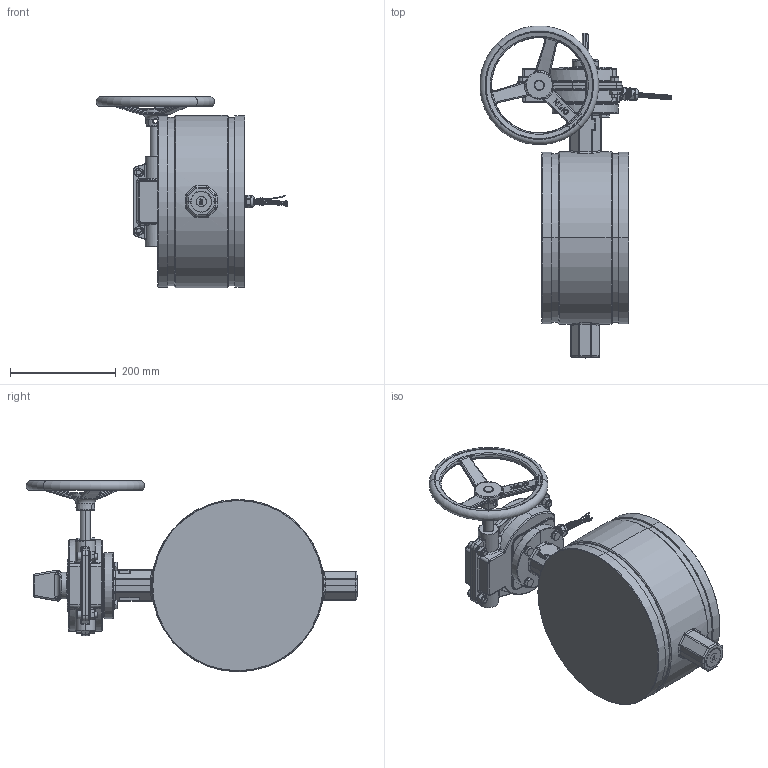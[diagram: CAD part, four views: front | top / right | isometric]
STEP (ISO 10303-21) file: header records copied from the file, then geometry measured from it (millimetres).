
FILE_DESCRIPTION (( 'STEP AP214' ), '1' );
FILE_NAME ('933XD381XD324.STEP', '2024-04-16T07:57:47', ( '' ), ( '' ), 'SwSTEP 2.0', 'SolidWorks 2018', '' );
FILE_SCHEMA (( 'AUTOMOTIVE_DESIGN' ));
Length unit declared in the file: millimetre
Products named in the file (19): 933XD381XD324; dt-38x1d5_a_d.STEP; 901WXTD300-01-1-T.STEP; 922D14-2B324.STEP; 922wwg42x19.STEP; 901XWL-RDD300.STEP; spring lock washers--normal type gb_GB_FASTENER_WASHER_SW 10.STEP; 933XD381XD324.STEP; 922WGZ19X260-01-0-T.STEP; single coil lock washers light type gb_GB_FASTENER_WASHER_SSWL 10.STEP; hex nuts, style 1-grades ab gb_GB_FASTENER_NUT_SNAB1 M10-N.STEP; hex head bolts-full thread grade c gb_GB_FASTENER_BOLT_HHBFTC M10X30-N.STEP; 901WGD300-01-2-T.STEP; 901wzspd100-01-2-t.STEP; 280S15.STEP; hexagon socket head cap screws gb_GB_FASTENER_SCREWS_HSHCS M10X30-N.STEP; MFD21D8X2.STEP; 922SL225x19X8-01-0-t.STEP; 陓瘍盄123
Assembly tree (33 placements, depth 4):
  933XD381XD324
    933XD381XD324.STEP
      901XWL-RDD300.STEP
        901WXTD300-01-1-T.STEP
        901WGD300-01-2-T.STEP
        922SL225x19X8-01-0-t.STEP
        922WGZ19X260-01-0-T.STEP
        922wwg42x19.STEP
        901wzspd100-01-2-t.STEP
        hexagon socket head cap screws gb_GB_FASTENER_SCREWS_HSHCS M10X30-N.STEP  x4
        spring lock washers--normal type gb_GB_FASTENER_WASHER_SW 10.STEP  x4
        hex nuts, style 1-grades ab gb_GB_FASTENER_NUT_SNAB1 M10-N.STEP  x4
      922D14-2B324.STEP
      dt-38x1d5_a_d.STEP
      single coil lock washers light type gb_GB_FASTENER_WASHER_SSWL 10.STEP  x4
      hex head bolts-full thread grade c gb_GB_FASTENER_BOLT_HHBFTC M10X30-N.STEP  x4
      MFD21D8X2.STEP
      280S15.STEP
    陓瘍盄123
Bounding box: 362.97 x 627.54 x 362.27 mm (x, y, z)
Volume: 15535425.1 mm3; surface area: 759947 mm2
Topology: 37 solids, 49 shells, 2685 faces, 6445 edges, 3869 vertices
Faces by surface type: bspline 868, plane 593, cylinder 578, cone 280, torus 198, sphere 168
Entity records: 137304 total; most frequent: CARTESIAN_POINT 88218, ORIENTED_EDGE 11628, DIRECTION 7319, EDGE_CURVE 5822, VERTEX_POINT 3509, AXIS2_PLACEMENT_3D 2977, B_SPLINE_CURVE_WITH_KNOTS 2926, EDGE_LOOP 2545
